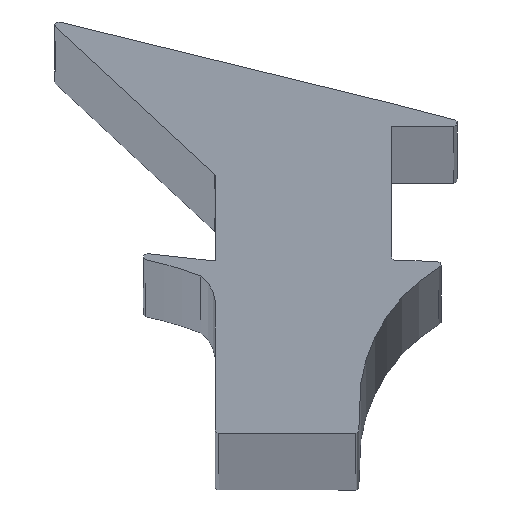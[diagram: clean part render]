
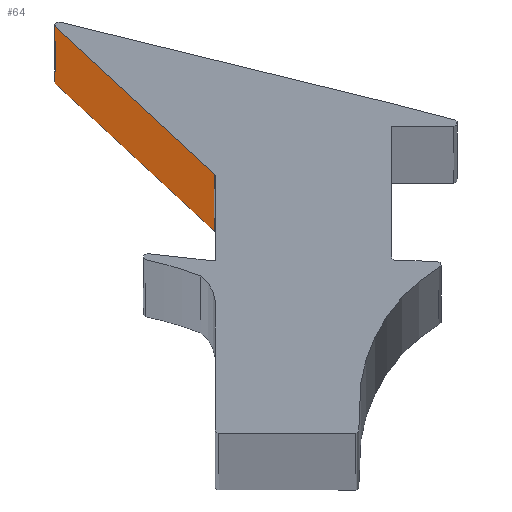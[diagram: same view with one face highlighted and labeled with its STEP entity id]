
A CAD part, top view. The second image highlights one B-rep face of the part: STEP entity #64.
In plain terms, the highlighted planar face has unit normal (-0.68, -0.733, 0).
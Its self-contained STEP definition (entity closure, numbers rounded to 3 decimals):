
#58 = VECTOR ( 'NONE', #552, 1000. ) ;
#64 = ADVANCED_FACE ( 'NONE', ( #609 ), #412, .F. ) ;
#71 = DIRECTION ( 'NONE',  ( 0.733, -0.68, 0. ) ) ;
#79 = CARTESIAN_POINT ( 'NONE',  ( -5.427, -1.471, -500. ) ) ;
#106 = ORIENTED_EDGE ( 'NONE', *, *, #191, .T. ) ;
#191 = EDGE_CURVE ( 'NONE', #325, #802, #703, .T. ) ;
#217 = CARTESIAN_POINT ( 'NONE',  ( -5.427, -1.471, 500. ) ) ;
#222 = ORIENTED_EDGE ( 'NONE', *, *, #553, .F. ) ;
#257 = LINE ( 'NONE', #79, #590 ) ;
#277 = DIRECTION ( 'NONE',  ( 0.68, 0.733, 0. ) ) ;
#295 = EDGE_CURVE ( 'NONE', #748, #744, #542, .T. ) ;
#299 = ORIENTED_EDGE ( 'NONE', *, *, #410, .T. ) ;
#314 = VECTOR ( 'NONE', #71, 1000. ) ;
#316 = AXIS2_PLACEMENT_3D ( 'NONE', #217, #277, #799 ) ;
#325 = VERTEX_POINT ( 'NONE', #746 ) ;
#337 = CARTESIAN_POINT ( 'NONE',  ( -5.427, -1.471, -500. ) ) ;
#403 = CARTESIAN_POINT ( 'NONE',  ( -10.301, 3.049, -500. ) ) ;
#410 = EDGE_CURVE ( 'NONE', #802, #744, #257, .T. ) ;
#412 = PLANE ( 'NONE',  #316 ) ;
#429 = DIRECTION ( 'NONE',  ( 0.733, -0.68, 0. ) ) ;
#435 = CARTESIAN_POINT ( 'NONE',  ( -5.427, -1.471, 500. ) ) ;
#448 = DIRECTION ( 'NONE',  ( 0., 0., -1. ) ) ;
#542 = LINE ( 'NONE', #554, #58 ) ;
#552 = DIRECTION ( 'NONE',  ( 0., 0., -1. ) ) ;
#553 = EDGE_CURVE ( 'NONE', #325, #748, #696, .T. ) ;
#554 = CARTESIAN_POINT ( 'NONE',  ( -5.427, -1.471, 500. ) ) ;
#590 = VECTOR ( 'NONE', #429, 1000. ) ;
#593 = VECTOR ( 'NONE', #448, 1000. ) ;
#603 = CARTESIAN_POINT ( 'NONE',  ( -5.427, -1.471, 500. ) ) ;
#609 = FACE_OUTER_BOUND ( 'NONE', #689, .T. ) ;
#652 = CARTESIAN_POINT ( 'NONE',  ( -10.301, 3.049, 500. ) ) ;
#681 = ORIENTED_EDGE ( 'NONE', *, *, #295, .F. ) ;
#689 = EDGE_LOOP ( 'NONE', ( #299, #681, #222, #106 ) ) ;
#696 = LINE ( 'NONE', #435, #314 ) ;
#703 = LINE ( 'NONE', #652, #593 ) ;
#744 = VERTEX_POINT ( 'NONE', #337 ) ;
#746 = CARTESIAN_POINT ( 'NONE',  ( -10.301, 3.049, 500. ) ) ;
#748 = VERTEX_POINT ( 'NONE', #603 ) ;
#799 = DIRECTION ( 'NONE',  ( -0.733, 0.68, 0. ) ) ;
#802 = VERTEX_POINT ( 'NONE', #403 ) ;
